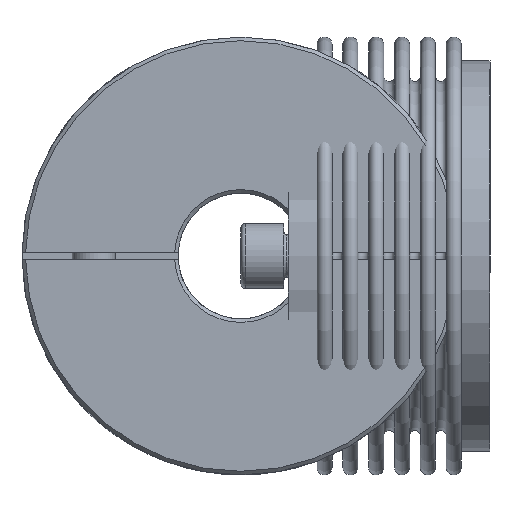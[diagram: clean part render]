
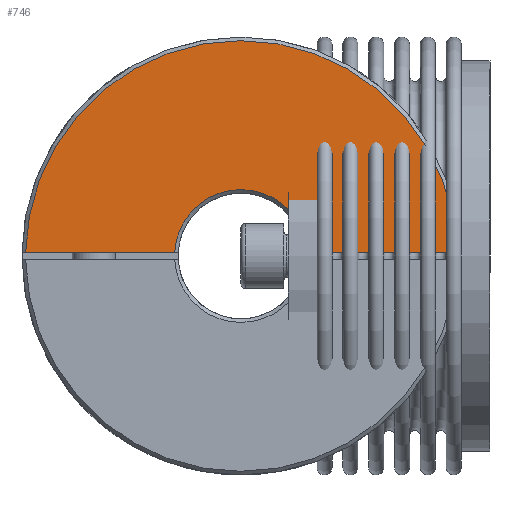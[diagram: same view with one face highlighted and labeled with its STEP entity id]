
A CAD part, front view. The second image highlights one B-rep face of the part: STEP entity #746.
In plain terms, the highlighted planar face has unit normal (0, -1, 0).
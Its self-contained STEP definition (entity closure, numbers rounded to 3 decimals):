
#746 = ADVANCED_FACE( '', ( #1138 ), #1139, .F. );
#1138 = FACE_OUTER_BOUND( '', #1373, .T. );
#1139 = PLANE( '', #1374 );
#1373 = EDGE_LOOP( '', ( #1715, #1716, #1717, #1718 ) );
#1374 = AXIS2_PLACEMENT_3D( '', #1719, #1720, #1721 );
#1715 = ORIENTED_EDGE( '', *, *, #2112, .T. );
#1716 = ORIENTED_EDGE( '', *, *, #2118, .T. );
#1717 = ORIENTED_EDGE( '', *, *, #2132, .T. );
#1718 = ORIENTED_EDGE( '', *, *, #2128, .T. );
#1719 = CARTESIAN_POINT( '', ( 0., -52., 0. ) );
#1720 = DIRECTION( '', ( 0., 1., 0. ) );
#1721 = DIRECTION( '', ( 0., 0., 1. ) );
#2112 = EDGE_CURVE( '', #2368, #2366, #2369, .T. );
#2118 = EDGE_CURVE( '', #2366, #2377, #2379, .T. );
#2128 = EDGE_CURVE( '', #2397, #2368, #2398, .F. );
#2132 = EDGE_CURVE( '', #2377, #2397, #2403, .T. );
#2366 = VERTEX_POINT( '', #2620 );
#2368 = VERTEX_POINT( '', #2625 );
#2369 = LINE( '', #2626, #2627 );
#2377 = VERTEX_POINT( '', #2640 );
#2379 = CIRCLE( '', #2645, 18.5 );
#2397 = VERTEX_POINT( '', #2759 );
#2398 = CIRCLE( '', #2760, 60. );
#2403 = LINE( '', #2769, #2770 );
#2620 = CARTESIAN_POINT( '', ( -18.473, -52., 1. ) );
#2625 = CARTESIAN_POINT( '', ( -59.992, -52., 1. ) );
#2626 = CARTESIAN_POINT( '', ( 0., -52., 1. ) );
#2627 = VECTOR( '', #3090, 1000. );
#2640 = CARTESIAN_POINT( '', ( 18.473, -52., 1. ) );
#2645 = AXIS2_PLACEMENT_3D( '', #3096, #3097, #3098 );
#2759 = CARTESIAN_POINT( '', ( 59.992, -52., 1. ) );
#2760 = AXIS2_PLACEMENT_3D( '', #3121, #3122, #3123 );
#2769 = CARTESIAN_POINT( '', ( 0., -52., 1. ) );
#2770 = VECTOR( '', #3128, 1000. );
#3090 = DIRECTION( '', ( 1., 0., 0. ) );
#3096 = CARTESIAN_POINT( '', ( 0., -52., 0. ) );
#3097 = DIRECTION( '', ( 0., 1., 0. ) );
#3098 = DIRECTION( '', ( 0., 0., 1. ) );
#3121 = CARTESIAN_POINT( '', ( 0., -52., 0. ) );
#3122 = DIRECTION( '', ( 0., 1., 0. ) );
#3123 = DIRECTION( '', ( 0., 0., 1. ) );
#3128 = DIRECTION( '', ( 1., 0., 0. ) );
